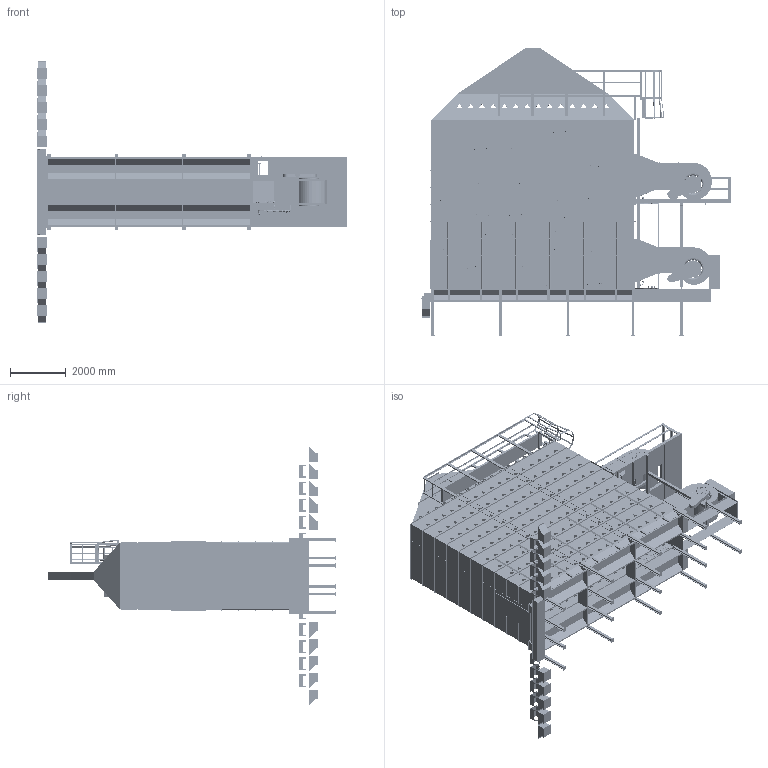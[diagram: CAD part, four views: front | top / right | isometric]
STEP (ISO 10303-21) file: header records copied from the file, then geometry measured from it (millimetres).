
FILE_DESCRIPTION(/* description */ ('PLAN AND ELEVATION VIEW FOR D24180 WITH ROOF & GRAVITY FILL'),/* implementation_level */ '2;1');
FILE_NAME(/* name */ 'C:\Engineering\Designs\Sales\Dryer\Workspaces\D24 All\D24180GF.stp',/* time_stamp */ '2025-01-07T09:34:41-06:00',/* author */ ('max.fleming'),/* organization */ (''),/* preprocessor_version */ 'ST-DEVELOPER v18.1',/* originating_system */ 'Autodesk Inventor 2022',/* authorisation */ '');
FILE_SCHEMA (('AUTOMOTIVE_DESIGN { 1 0 10303 214 3 1 1 }'));
Products named in the file (34): D24180GF; 24FT CATWALK; 24FT FRAME; 8FT MID FRAME; 8FT LHRH FRAME; 24FT Grav Assy; 24FT ROOF GF; 8FTRoof GF MID; 8FTRoof GF LHRH; Tongue; Platform Support 1-T; 24FT BODY TIER; LH Body; MID Body; RH Body; LH Body_MIR2; MID Body_MIR1; RH Body_MIR2; Outside Splice; Trans & Blower; Screen Guard; Belt Shield; LP Fuel; Standard Size End Plenum Panels; Ladder 2' section; Platform; Stiffeners; 1 Tier Vertical Support; LP Inlet; 2401002; Liquid Propane Pipe; 8'' CROSS AUGER; 12'' CROSS DRAG; Leg Kit 24 10T 4'
Assembly tree (123 placements, depth 3):
  D24180GF
    24FT CATWALK
    24FT FRAME
      8FT LHRH FRAME  x2
      8FT MID FRAME
    24FT Grav Assy
    24FT ROOF GF
      8FTRoof GF LHRH  x2
      8FTRoof GF MID
    Tongue
    Platform Support 1-T
    24FT BODY TIER  x10
      LH Body
      MID Body
      RH Body
      LH Body_MIR2
      MID Body_MIR1
      RH Body_MIR2
      Outside Splice
    Trans & Blower  x2
    Screen Guard  x4
    Belt Shield  x2
    LP Fuel  x2
    Standard Size End Plenum Panels  x17
    Platform
    Stiffeners  x48
    1 Tier Vertical Support  x8
    LP Inlet
    2401002
    Liquid Propane Pipe  x5
  Ladder 2' section
  8'' CROSS AUGER
  12'' CROSS DRAG
  Leg Kit 24 10T 4'
Bounding box: 11201.4 x 10349.88 x 9423.4 mm (x, y, z)
Volume: 82115557867.7 mm3; surface area: 1126552553.9 mm2
Topology: 537 solids, 695 shells, 40004 faces, 103718 edges, 66415 vertices
Faces by surface type: plane 19466, cylinder 11598, bspline 3773, cone 3394, torus 1591, sphere 182
Full cylindrical faces by diameter (mm): 1 x10, 1.651 x6, 1.753 x6, 1.778 x12, 2.019 x4, 2.108 x2, 2.286 x24, 2.489 x2, 2.54 x4, 3.091 x288, 3.175 x5, 3.251 x20, 3.306 x288, 3.522 x2, 3.658 x28, 3.8 x16, 4 x384, 4.039 x20, 4.166 x256, 4.191 x4, 4.229 x2, 4.267 x2, 4.369 x8, 4.445 x8, 4.701 x592, 4.762 x16, 4.851 x8, 4.928 x32, 5.283 x2, 5.527 x20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
Entity records: 770807 total; most frequent: CARTESIAN_POINT 341377, ORIENTED_EDGE 89808, DIRECTION 80458, EDGE_CURVE 45044, VERTEX_POINT 28810, AXIS2_PLACEMENT_3D 27616, LINE 25226, VECTOR 25226
